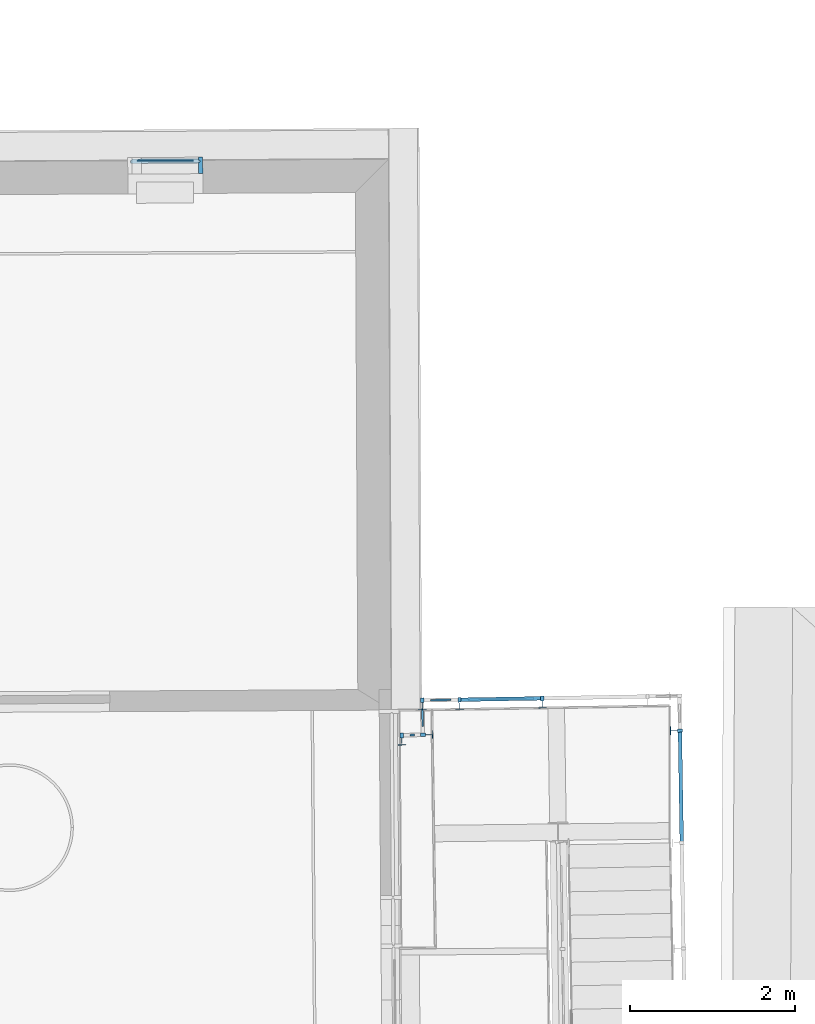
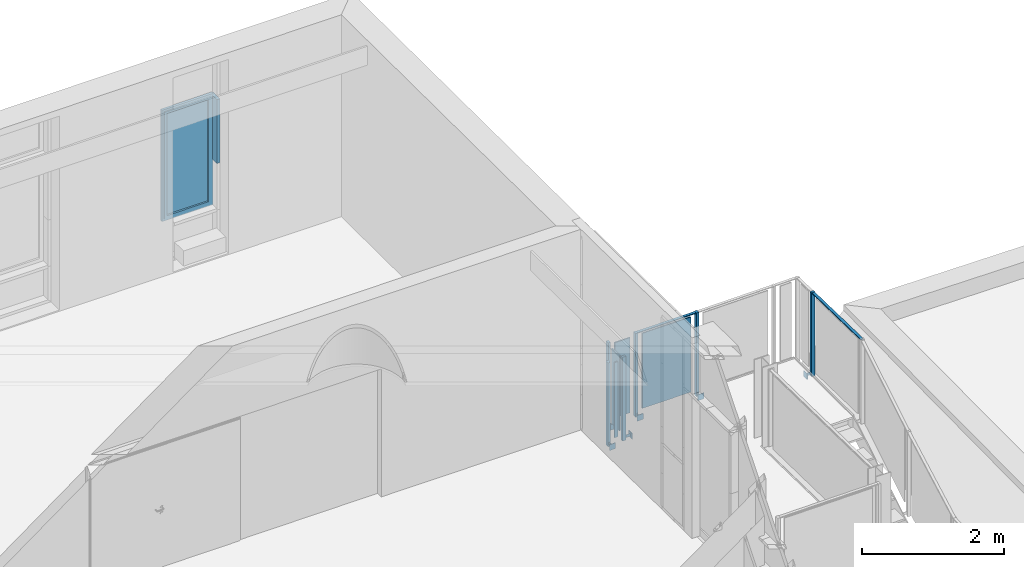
# One storey, part 111 of 158: 15 building element parts, 2 elements without a shape of their own.
"""IFC2X3 building model written with IfcOpenShell, lengths in metres."""

from ifc_helpers import new_model, entity, si_unit, converted_unit, derived_unit, money_unit, direction, frame, origin_with_axes, place, context, subcontext, project, spatial, faceted_brep, material, type_object, element, aggregate, save


model = new_model("IFC2X3")

# Units and contexts
model_context = context("Model", 3, precision=1e-05, world=origin_with_axes(), true_north=direction((0.0, 1.0)))
body_context = subcontext(model_context, "Body", "Model", "MODEL_VIEW")
ifc_project = project(units=[si_unit("LENGTHUNIT", "METRE"), si_unit("AREAUNIT", "SQUARE_METRE"), si_unit("VOLUMEUNIT", "CUBIC_METRE"), converted_unit("PLANEANGLEUNIT", "DEGREE", entity("IfcPlaneAngleMeasure", 0.0174532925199), si_unit("PLANEANGLEUNIT", "RADIAN"), dimensions=[0, 0, 0, 0, 0, 0, 0]), money_unit("EUR"), converted_unit("TIMEUNIT", "Year", entity("IfcTimeMeasure", 31556926.0), si_unit("TIMEUNIT", "SECOND"), dimensions=[0, 0, 1, 0, 0, 0, 0]), si_unit("MASSUNIT", "GRAM", prefix="KILO"), si_unit("THERMODYNAMICTEMPERATUREUNIT", "DEGREE_CELSIUS"), si_unit("LUMINOUSINTENSITYUNIT", "LUMEN"), si_unit("ENERGYUNIT", "JOULE", prefix="MEGA"), derived_unit("THERMALCONDUCTANCEUNIT", [(si_unit("POWERUNIT", "WATT"), 1), (si_unit("LENGTHUNIT", "METRE"), -1), (si_unit("THERMODYNAMICTEMPERATUREUNIT", "KELVIN"), -1)]), derived_unit("SPECIFICHEATCAPACITYUNIT", [(si_unit("ENERGYUNIT", "JOULE"), 1), (si_unit("MASSUNIT", "GRAM", prefix="KILO"), -1), (si_unit("THERMODYNAMICTEMPERATUREUNIT", "KELVIN"), -1)]), derived_unit("MASSDENSITYUNIT", [(si_unit("MASSUNIT", "GRAM", prefix="KILO"), 1), (si_unit("VOLUMEUNIT", "CUBIC_METRE"), -1)])], contexts=[model_context])

# Site, building, storey
site_placement = place(None, origin_with_axes())
site = spatial("IfcSite", under=ifc_project, at=site_placement, Name="Gelände", CompositionType="ELEMENT")
building_placement = place(site_placement, origin_with_axes())
building = spatial("IfcBuilding", under=site, at=building_placement, Name="Gebäude", CompositionType="ELEMENT")
storey_placement = place(building_placement, origin_with_axes())
storey = spatial("IfcBuildingStorey", under=building, at=storey_placement, Name="ERDGESCHOSS", CompositionType="ELEMENT", Elevation=0.0)

# Proxy, building element parts
building_element_proxy_type_1 = type_object("IfcBuildingElementProxyType", Name="Fassadentyp", PredefinedType="NOTDEFINED")
proxy_1_placement = place(storey_placement, frame((-18.429809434, 53.9956757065, 1.34043902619), z_axis=(0.0, 0.0, 1.0), x_axis=(1.0, 0.0, 0.0)))
proxy_1 = element("IfcBuildingElementProxy", 1, at=proxy_1_placement, inside=storey, type_object=building_element_proxy_type_1, Name="Fassade-002")
ifc_material_1 = material(Name="53_Metall, Aluminium")
building_element_part_1_placement = place(proxy_1_placement, origin_with_axes())
building_element_part_1 = element("IfcBuildingElementPart", 2, at=building_element_part_1_placement, material=ifc_material_1, Name="53_Metall, Aluminium", context=body_context, shape_type="Brep", body=[
    faceted_brep([(0.49932344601, 0.0329124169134, 0.645000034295), (-0.307762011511, 0.0282057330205, 0.645000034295), (-0.307791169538, 0.0332056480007, 0.645000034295), (0.499294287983, 0.0379123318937, 0.645000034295), (0.454324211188, 0.0326499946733, 0.690000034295), (-0.262762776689, 0.0284681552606, 0.690000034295), (-0.262791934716, 0.0334680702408, 0.690000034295), (0.454295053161, 0.0376499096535, 0.690000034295)], [[[0, 1, 2, 3]], [[0, 4, 5, 1]], [[1, 5, 6, 2]], [[3, 2, 6, 7]], [[4, 0, 3, 7]], [[5, 4, 7, 6]]]),
    faceted_brep([(-0.307762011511, 0.0282057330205, 0.645000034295), (-0.307762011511, 0.0282057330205, 2.53377854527), (-0.307791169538, 0.0332056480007, 2.53377854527), (-0.307791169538, 0.0332056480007, 0.645000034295), (-0.262762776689, 0.0284681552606, 0.690000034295), (-0.262762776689, 0.0284681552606, 2.48877854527), (-0.262791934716, 0.0334680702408, 2.48877854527), (-0.262791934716, 0.0334680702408, 0.690000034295)], [[[0, 1, 2, 3]], [[0, 4, 5, 1]], [[1, 5, 6, 2]], [[3, 2, 6, 7]], [[4, 0, 3, 7]], [[5, 4, 7, 6]]]),
    faceted_brep([(0.49932344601, 0.0329124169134, 2.53377854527), (0.454324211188, 0.0326499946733, 2.48877854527), (0.454295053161, 0.0376499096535, 2.48877854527), (0.499294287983, 0.0379123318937, 2.53377854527), (-0.307762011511, 0.0282057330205, 2.53377854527), (-0.262762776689, 0.0284681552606, 2.48877854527), (-0.262791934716, 0.0334680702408, 2.48877854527), (-0.307791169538, 0.0332056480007, 2.53377854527)], [[[0, 1, 2, 3]], [[0, 4, 5, 1]], [[1, 5, 6, 2]], [[3, 2, 6, 7]], [[4, 0, 3, 7]], [[5, 4, 7, 6]]]),
    faceted_brep([(0.49932344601, 0.0329124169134, 0.645000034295), (0.454324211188, 0.0326499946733, 0.690000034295), (0.454295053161, 0.0376499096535, 0.690000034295), (0.499294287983, 0.0379123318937, 0.645000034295), (0.49932344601, 0.0329124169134, 2.53377854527), (0.454324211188, 0.0326499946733, 2.48877854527), (0.454295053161, 0.0376499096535, 2.48877854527), (0.499294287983, 0.0379123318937, 2.53377854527)], [[[0, 1, 2, 3]], [[0, 4, 5, 1]], [[1, 5, 6, 2]], [[3, 2, 6, 7]], [[4, 0, 3, 7]], [[5, 4, 7, 6]]]),
    faceted_brep([(0.499615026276, -0.0170867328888, 0.645000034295), (-0.307470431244, -0.0217934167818, 0.645000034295), (-0.307762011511, 0.0282057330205, 0.645000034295), (0.49932344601, 0.0329124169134, 0.645000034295), (0.479615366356, -0.0172033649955, 0.665000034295), (-0.287470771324, -0.0216767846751, 0.665000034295), (-0.28776235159, 0.0283223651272, 0.665000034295), (0.479323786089, 0.0327957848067, 0.665000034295)], [[[0, 1, 2, 3]], [[0, 4, 5, 1]], [[1, 5, 6, 2]], [[3, 2, 6, 7]], [[4, 0, 3, 7]], [[5, 4, 7, 6]]]),
    faceted_brep([(-0.307470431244, -0.0217934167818, 0.645000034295), (-0.307470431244, -0.0217934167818, 2.53377854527), (-0.307762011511, 0.0282057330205, 2.53377854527), (-0.307762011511, 0.0282057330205, 0.645000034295), (-0.287470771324, -0.0216767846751, 0.665000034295), (-0.287470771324, -0.0216767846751, 2.51377854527), (-0.28776235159, 0.0283223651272, 2.51377854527), (-0.28776235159, 0.0283223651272, 0.665000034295)], [[[0, 1, 2, 3]], [[0, 4, 5, 1]], [[1, 5, 6, 2]], [[3, 2, 6, 7]], [[4, 0, 3, 7]], [[5, 4, 7, 6]]]),
    faceted_brep([(0.499615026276, -0.0170867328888, 2.53377854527), (0.479615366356, -0.0172033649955, 2.51377854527), (0.479323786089, 0.0327957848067, 2.51377854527), (0.49932344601, 0.0329124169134, 2.53377854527), (-0.307470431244, -0.0217934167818, 2.53377854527), (-0.287470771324, -0.0216767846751, 2.51377854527), (-0.28776235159, 0.0283223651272, 2.51377854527), (-0.307762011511, 0.0282057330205, 2.53377854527)], [[[0, 1, 2, 3]], [[0, 4, 5, 1]], [[1, 5, 6, 2]], [[3, 2, 6, 7]], [[4, 0, 3, 7]], [[5, 4, 7, 6]]]),
    faceted_brep([(0.499615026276, -0.0170867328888, 0.645000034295), (0.479615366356, -0.0172033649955, 0.665000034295), (0.479323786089, 0.0327957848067, 0.665000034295), (0.49932344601, 0.0329124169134, 0.645000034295), (0.499615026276, -0.0170867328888, 2.53377854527), (0.479615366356, -0.0172033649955, 2.51377854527), (0.479323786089, 0.0327957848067, 2.51377854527), (0.49932344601, 0.0329124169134, 2.53377854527)], [[[0, 1, 2, 3]], [[0, 4, 5, 1]], [[1, 5, 6, 2]], [[3, 2, 6, 7]], [[4, 0, 3, 7]], [[5, 4, 7, 6]]]),
    faceted_brep([(0.514614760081, -0.0169992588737, 0.630000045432), (-0.322470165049, -0.0218808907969, 0.630000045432), (-0.322703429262, 0.0181184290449, 0.630000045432), (0.514381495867, 0.0230000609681, 0.630000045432), (0.499615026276, -0.0170867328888, 0.645000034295), (-0.307470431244, -0.0217934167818, 0.645000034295), (-0.307703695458, 0.01820590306, 0.645000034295), (0.499381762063, 0.022912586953, 0.645000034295)], [[[0, 1, 2, 3]], [[0, 4, 5, 1]], [[1, 5, 6, 2]], [[3, 2, 6, 7]], [[4, 0, 3, 7]], [[5, 4, 7, 6]]]),
    faceted_brep([(-0.322470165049, -0.0218808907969, 0.630000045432), (-0.322470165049, -0.0218808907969, 2.54877853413), (-0.322703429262, 0.0181184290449, 2.54877853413), (-0.322703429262, 0.0181184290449, 0.630000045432), (-0.307470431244, -0.0217934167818, 0.645000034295), (-0.307470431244, -0.0217934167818, 2.53377854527), (-0.307703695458, 0.01820590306, 2.53377854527), (-0.307703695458, 0.01820590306, 0.645000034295)], [[[0, 1, 2, 3]], [[0, 4, 5, 1]], [[1, 5, 6, 2]], [[3, 2, 6, 7]], [[4, 0, 3, 7]], [[5, 4, 7, 6]]]),
    faceted_brep([(-0.322470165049, -0.0218808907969, 2.54877853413), (0.514614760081, -0.0169992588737, 2.54877853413), (0.514381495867, 0.0230000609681, 2.54877853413), (-0.322703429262, 0.0181184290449, 2.54877853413), (-0.307470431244, -0.0217934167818, 2.53377854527), (0.499615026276, -0.0170867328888, 2.53377854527), (0.499381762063, 0.022912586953, 2.53377854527), (-0.307703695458, 0.01820590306, 2.53377854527)], [[[0, 1, 2, 3]], [[0, 4, 5, 1]], [[1, 5, 6, 2]], [[3, 2, 6, 7]], [[4, 0, 3, 7]], [[5, 4, 7, 6]]]),
    faceted_brep([(0.514614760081, -0.0169992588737, 2.54877853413), (0.514614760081, -0.0169992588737, 0.630000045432), (0.514381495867, 0.0230000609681, 0.630000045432), (0.514381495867, 0.0230000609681, 2.54877853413), (0.499615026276, -0.0170867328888, 2.53377854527), (0.499615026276, -0.0170867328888, 0.645000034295), (0.499381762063, 0.022912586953, 0.645000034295), (0.499381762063, 0.022912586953, 2.53377854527)], [[[0, 1, 2, 3]], [[0, 4, 5, 1]], [[1, 5, 6, 2]], [[3, 2, 6, 7]], [[4, 0, 3, 7]], [[5, 4, 7, 6]]]),
    faceted_brep([(0.434324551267, 0.0325333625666, 0.710000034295), (0.43464528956, -0.0224657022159, 0.710000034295), (0.43464528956, -0.0224657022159, 2.46877854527), (0.434324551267, 0.0325333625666, 2.46877854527), (0.479323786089, 0.0327957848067, 0.665000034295), (0.479644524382, -0.0222032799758, 0.665000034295), (0.479644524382, -0.0222032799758, 2.51377854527), (0.479323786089, 0.0327957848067, 2.51377854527)], [[[0, 1, 2, 3]], [[4, 5, 1, 0]], [[1, 5, 6, 2]], [[3, 2, 6, 7]], [[0, 3, 7, 4]], [[7, 6, 5, 4]]]),
    faceted_brep([(-0.28776235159, 0.0283223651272, 0.665000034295), (-0.287441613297, -0.0266766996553, 0.665000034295), (-0.287441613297, -0.0266766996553, 2.51377854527), (-0.28776235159, 0.0283223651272, 2.51377854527), (-0.242763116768, 0.0285847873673, 0.710000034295), (-0.242442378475, -0.0264142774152, 0.710000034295), (-0.242442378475, -0.0264142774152, 2.46877854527), (-0.242763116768, 0.0285847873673, 2.46877854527)], [[[0, 1, 2, 3]], [[4, 5, 1, 0]], [[1, 5, 6, 2]], [[3, 2, 6, 7]], [[0, 3, 7, 4]], [[7, 6, 5, 4]]]),
    faceted_brep([(-0.28776235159, 0.0283223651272, 0.665000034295), (-0.287441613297, -0.0266766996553, 0.665000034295), (-0.242442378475, -0.0264142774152, 0.710000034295), (-0.242763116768, 0.0285847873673, 0.710000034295), (0.479323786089, 0.0327957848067, 0.665000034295), (0.479644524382, -0.0222032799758, 0.665000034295), (0.43464528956, -0.0224657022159, 0.710000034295), (0.434324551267, 0.0325333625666, 0.710000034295)], [[[0, 1, 2, 3]], [[4, 5, 1, 0]], [[1, 5, 6, 2]], [[3, 2, 6, 7]], [[0, 3, 7, 4]], [[7, 6, 5, 4]]]),
    faceted_brep([(0.479323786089, 0.0327957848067, 2.51377854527), (0.479644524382, -0.0222032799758, 2.51377854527), (0.43464528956, -0.0224657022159, 2.46877854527), (0.434324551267, 0.0325333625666, 2.46877854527), (-0.28776235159, 0.0283223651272, 2.51377854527), (-0.287441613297, -0.0266766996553, 2.51377854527), (-0.242442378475, -0.0264142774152, 2.46877854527), (-0.242763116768, 0.0285847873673, 2.46877854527)], [[[0, 1, 2, 3]], [[4, 5, 1, 0]], [[1, 5, 6, 2]], [[3, 2, 6, 7]], [[0, 3, 7, 4]], [[7, 6, 5, 4]]]),
])
ifc_material_2 = material(Name="45_Glas, Normalglas")
building_element_part_2_placement = place(proxy_1_placement, origin_with_axes())
building_element_part_2 = element("IfcBuildingElementPart", 3, at=building_element_part_2_placement, material=ifc_material_2, Name="45_Glas, Normalglas", context=body_context, shape_type="Brep", body=[
    faceted_brep([(0.43438286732, 0.0225335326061, 0.710000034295), (0.434476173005, 0.00653380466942, 0.710000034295), (-0.24261149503, 0.00258522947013, 0.710000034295), (-0.242704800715, 0.0185849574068, 0.710000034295), (0.43438286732, 0.0225335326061, 2.46877854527), (0.434476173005, 0.00653380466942, 2.46877854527), (-0.24261149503, 0.00258522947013, 2.46877854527), (-0.242704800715, 0.0185849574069, 2.46877854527)], [[[0, 1, 2, 3]], [[4, 5, 1, 0]], [[1, 5, 6, 2]], [[3, 2, 6, 7]], [[0, 3, 7, 4]], [[7, 6, 5, 4]]]),
])
building_element_part_3_placement = place(proxy_1_placement, origin_with_axes())
building_element_part_3 = element("IfcBuildingElementPart", 4, at=building_element_part_3_placement, material=ifc_material_1, Name="53_Metall, Aluminium", context=body_context, shape_type="Brep", body=[
    faceted_brep([(0.514556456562, -0.00699942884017, 2.5200000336), (0.499556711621, -0.00708690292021, 2.5200000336), (0.500373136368, -0.147084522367, 2.5200000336), (0.55037228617, -0.1467929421, 2.5200000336), (0.549205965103, 0.0532036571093, 2.5200000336), (0.499206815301, 0.0529120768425, 2.5200000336), (0.499440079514, 0.0129127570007, 2.5200000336), (0.514439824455, 0.0130002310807, 2.5200000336), (0.514556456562, -0.00699942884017, 1.4200000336), (0.499556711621, -0.00708690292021, 1.4200000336), (0.500373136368, -0.147084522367, 1.4200000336), (0.55037228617, -0.1467929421, 1.4200000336), (0.549205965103, 0.0532036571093, 1.4200000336), (0.499206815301, 0.0529120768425, 1.4200000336), (0.499440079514, 0.0129127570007, 1.4200000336), (0.514439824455, 0.0130002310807, 1.4200000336)], [[[0, 1, 2, 3, 4, 5, 6, 7]], [[0, 8, 9, 1]], [[9, 10, 2, 1]], [[10, 11, 3, 2]], [[11, 12, 4, 3]], [[12, 13, 5, 4]], [[6, 5, 13, 14]], [[14, 15, 7, 6]], [[7, 15, 8, 0]], [[8, 15, 14, 13, 12, 11, 10, 9]]]),
])
aggregate(proxy_1, [building_element_part_1, building_element_part_2, building_element_part_3])

building_element_proxy_type_2 = type_object("IfcBuildingElementProxyType", Name="Geländerart", PredefinedType="NOTDEFINED")
proxy_2_placement = place(storey_placement, frame((-12.121386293, 39.1724071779, -2.51797066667), z_axis=(0.0, 0.0, 1.0), x_axis=(1.0, 0.0, 0.0)))
proxy_2 = element("IfcBuildingElementProxy", 5, at=proxy_2_placement, inside=storey, type_object=building_element_proxy_type_2, Name="Geländer-001")
ifc_material_3 = material(Name="56_Metall, Stahl verzinkt")
building_element_part_4_placement = place(proxy_2_placement, origin_with_axes())
building_element_part_4 = element("IfcBuildingElementPart", 6, at=building_element_part_4_placement, material=ifc_material_3, Name="56_Metall, Stahl verzinkt", context=body_context, shape_type="Brep", body=[
    faceted_brep([(-0.0166545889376, 7.93722979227, 3.748423), (-0.0167360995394, 7.94222912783, 3.748423), (-0.0967254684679, 7.9409249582, 3.748423), (-0.0966439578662, 7.93592562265, 3.748423), (-0.0167360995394, 7.94222912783, 3.698423), (-0.0166545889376, 7.93722979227, 3.698423), (-0.0967254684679, 7.9409249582, 3.698423), (-0.0966439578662, 7.93592562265, 3.698423)], [[[0, 1, 2, 3]], [[4, 1, 0, 5]], [[1, 4, 6, 2]], [[7, 3, 2, 6]], [[5, 0, 3, 7]], [[4, 5, 7, 6]]]),
    faceted_brep([(-0.105868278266, 7.88826891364, 3.773423), (-0.0958696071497, 7.88843193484, 3.773423), (-0.0974998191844, 7.988418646, 3.773423), (-0.1074984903, 7.9882556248, 3.773423), (-0.105868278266, 7.88826891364, 3.673423), (-0.0958696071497, 7.88843193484, 3.673423), (-0.0974998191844, 7.988418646, 3.673423), (-0.1074984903, 7.9882556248, 3.673423)], [[[0, 1, 2, 3]], [[4, 5, 1, 0]], [[1, 5, 6, 2]], [[3, 2, 6, 7]], [[0, 3, 7, 4]], [[7, 6, 5, 4]]]),
    faceted_brep([(0.0429706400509, 7.9607049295, 3.673423), (-0.0170213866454, 7.95972680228, 3.673423), (-0.0170213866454, 7.95972680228, 5.118423), (0.0429706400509, 7.9607049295, 5.118423), (0.0436227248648, 7.92071024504, 3.673423), (-0.0163693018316, 7.91973211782, 3.673423), (-0.0163693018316, 7.91973211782, 5.118423), (0.0436227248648, 7.92071024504, 5.118423)], [[[0, 1, 2, 3]], [[0, 4, 5, 1]], [[1, 5, 6, 2]], [[3, 2, 6, 7]], [[4, 0, 3, 7]], [[5, 4, 7, 6]]]),
])
building_element_part_5_placement = place(proxy_2_placement, origin_with_axes())
building_element_part_5 = element("IfcBuildingElementPart", 7, at=building_element_part_5_placement, material=ifc_material_3, Name="56_Metall, Stahl verzinkt", context=body_context, shape_type="Brep", body=[
    faceted_brep([(-1.64829777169, 8.30090155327, 3.75036885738), (-1.65329698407, 8.3008128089, 3.75036885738), (-1.65187707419, 8.2208254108, 3.75036885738), (-1.64687786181, 8.22091415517, 3.75036885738), (-1.65329698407, 8.3008128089, 3.70036885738), (-1.64829777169, 8.30090155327, 3.70036885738), (-1.65187707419, 8.2208254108, 3.70036885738), (-1.64687786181, 8.22091415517, 3.70036885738)], [[[0, 1, 2, 3]], [[4, 1, 0, 5]], [[1, 4, 6, 2]], [[7, 3, 2, 6]], [[5, 0, 3, 7]], [[4, 5, 7, 6]]]),
    faceted_brep([(-1.59920785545, 8.21175880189, 3.77536885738), (-1.59938534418, 8.22175722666, 3.77536885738), (-1.69936959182, 8.21998233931, 3.77536885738), (-1.69919210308, 8.20998391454, 3.77536885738), (-1.59920785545, 8.21175880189, 3.67536885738), (-1.59938534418, 8.22175722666, 3.67536885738), (-1.69936959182, 8.21998233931, 3.67536885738), (-1.69919210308, 8.20998391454, 3.67536885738)], [[[0, 1, 2, 3]], [[4, 5, 1, 0]], [[1, 5, 6, 2]], [[3, 2, 6, 7]], [[0, 3, 7, 4]], [[7, 6, 5, 4]]]),
    faceted_brep([(-1.67185915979, 8.3604927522, 3.67544903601), (-1.67079422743, 8.30050220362, 3.67544902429), (-1.67079422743, 8.30050220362, 5.12044902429), (-1.67185915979, 8.3604927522, 5.12044903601), (-1.63186546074, 8.36120270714, 3.67528869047), (-1.63080052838, 8.30121215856, 3.67528867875), (-1.63080052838, 8.30121215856, 5.12028867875), (-1.63186546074, 8.36120270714, 5.12028869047)], [[[0, 1, 2, 3]], [[0, 4, 5, 1]], [[1, 5, 6, 2]], [[3, 2, 6, 7]], [[4, 0, 3, 7]], [[5, 4, 7, 6]]]),
])
building_element_part_6_placement = place(proxy_2_placement, origin_with_axes())
building_element_part_6 = element("IfcBuildingElementPart", 8, at=building_element_part_6_placement, material=ifc_material_3, Name="56_Metall, Stahl verzinkt", context=body_context, shape_type="Brep", body=[
    faceted_brep([(-2.64996481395, 8.28318048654, 3.756869), (-2.65496403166, 8.28309204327, 3.756869), (-2.6535489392, 8.20310455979, 3.756869), (-2.64854972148, 8.20319300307, 3.756869), (-2.65496403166, 8.28309204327, 3.706869), (-2.64996481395, 8.28318048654, 3.706869), (-2.6535489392, 8.20310455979, 3.706869), (-2.64854972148, 8.20319300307, 3.706869)], [[[0, 1, 2, 3]], [[4, 1, 0, 5]], [[1, 4, 6, 2]], [[7, 3, 2, 6]], [[5, 0, 3, 7]], [[4, 5, 7, 6]]]),
    faceted_brep([(-2.60088026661, 8.19403477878, 3.781869), (-2.60105715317, 8.20403321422, 3.781869), (-2.70104150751, 8.20226434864, 3.781869), (-2.70086462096, 8.1922659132, 3.781869), (-2.60088026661, 8.19403477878, 3.681869), (-2.60105715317, 8.20403321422, 3.681869), (-2.70104150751, 8.20226434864, 3.681869), (-2.70086462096, 8.1922659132, 3.681869)], [[[0, 1, 2, 3]], [[4, 5, 1, 0]], [[1, 5, 6, 2]], [[3, 2, 6, 7]], [[0, 3, 7, 4]], [[7, 6, 5, 4]]]),
    faceted_brep([(-2.67352261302, 8.3427731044, 3.68193388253), (-2.67246129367, 8.28278249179, 3.68193388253), (-2.67246129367, 8.28278249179, 5.12693388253), (-2.67352261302, 8.3427731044, 5.12693388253), (-2.63352887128, 8.34348065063, 3.68180411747), (-2.63246755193, 8.28349003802, 3.68180411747), (-2.63246755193, 8.28349003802, 5.12680411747), (-2.63352887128, 8.34348065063, 5.12680411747)], [[[0, 1, 2, 3]], [[0, 4, 5, 1]], [[1, 5, 6, 2]], [[3, 2, 6, 7]], [[4, 0, 3, 7]], [[5, 4, 7, 6]]]),
])
building_element_part_7_placement = place(proxy_2_placement, origin_with_axes())
building_element_part_7 = element("IfcBuildingElementPart", 9, at=building_element_part_7_placement, material=ifc_material_3, Name="56_Metall, Stahl verzinkt", context=body_context, shape_type="Brep", body=[
    faceted_brep([(-3.10052437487, 8.27723243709, 3.756869), (-3.10552394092, 8.2771665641, 3.756869), (-3.10446997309, 8.19717350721, 3.756869), (-3.09947040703, 8.19723938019, 3.756869), (-3.10552394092, 8.2771665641, 3.706869), (-3.10052437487, 8.27723243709, 3.706869), (-3.10446997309, 8.19717350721, 3.706869), (-3.09947040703, 8.19723938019, 3.706869)], [[[0, 1, 2, 3]], [[4, 1, 0, 5]], [[1, 4, 6, 2]], [[7, 3, 2, 6]], [[5, 0, 3, 7]], [[4, 5, 7, 6]]]),
    faceted_brep([(-3.05184278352, 8.18786604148, 3.781869), (-3.0519745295, 8.19786517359, 3.781869), (-3.15196585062, 8.1965477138, 3.781869), (-3.15183410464, 8.18654858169, 3.781869), (-3.05184278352, 8.18786604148, 3.681869), (-3.0519745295, 8.19786517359, 3.681869), (-3.15196585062, 8.1965477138, 3.681869), (-3.15183410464, 8.18654858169, 3.681869)], [[[0, 1, 2, 3]], [[4, 5, 1, 0]], [[1, 5, 6, 2]], [[3, 2, 6, 7]], [[0, 3, 7, 4]], [[7, 6, 5, 4]]]),
    faceted_brep([(-3.12381289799, 8.33693080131, 3.681869), (-3.12302242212, 8.27693600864, 3.681869), (-3.12302242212, 8.27693600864, 5.126869), (-3.12381289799, 8.33693080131, 5.126869), (-3.08381636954, 8.33745778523, 3.681869), (-3.08302589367, 8.27746299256, 3.681869), (-3.08302589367, 8.27746299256, 5.126869), (-3.08381636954, 8.33745778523, 5.126869)], [[[0, 1, 2, 3]], [[0, 4, 5, 1]], [[1, 5, 6, 2]], [[3, 2, 6, 7]], [[4, 0, 3, 7]], [[5, 4, 7, 6]]]),
])
building_element_part_8_placement = place(proxy_2_placement, origin_with_axes())
building_element_part_8 = element("IfcBuildingElementPart", 10, at=building_element_part_8_placement, material=ifc_material_3, Name="56_Metall, Stahl verzinkt", context=body_context, shape_type="Brep", body=[
    faceted_brep([(-3.06641664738, 7.89326014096, 3.756869), (-3.06633212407, 7.88826085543, 3.756869), (-2.98634355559, 7.8896132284, 3.756869), (-2.9864280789, 7.89461251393, 3.756869), (-3.06633212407, 7.88826085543, 3.706869), (-3.06641664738, 7.89326014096, 3.706869), (-2.98634355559, 7.8896132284, 3.706869), (-2.9864280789, 7.89461251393, 3.706869)], [[[0, 1, 2, 3]], [[4, 1, 0, 5]], [[1, 4, 6, 2]], [[7, 3, 2, 6]], [[5, 0, 3, 7]], [[4, 5, 7, 6]]]),
    faceted_brep([(-2.97723247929, 7.94227477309, 3.781869), (-2.98723105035, 7.94210572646, 3.781869), (-2.98554058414, 7.84212001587, 3.781869), (-2.97554201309, 7.84228906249, 3.781869), (-2.97723247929, 7.94227477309, 3.681869), (-2.98723105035, 7.94210572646, 3.681869), (-2.98554058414, 7.84212001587, 3.681869), (-2.97554201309, 7.84228906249, 3.681869)], [[[0, 1, 2, 3]], [[4, 5, 1, 0]], [[1, 5, 6, 2]], [[3, 2, 6, 7]], [[0, 3, 7, 4]], [[7, 6, 5, 4]]]),
    faceted_brep([(-3.12602771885, 7.86974907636, 3.681869), (-3.06603629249, 7.87076335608, 3.681869), (-3.06603629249, 7.87076335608, 5.126869), (-3.12602771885, 7.86974907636, 5.126869), (-3.12670390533, 7.9097433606, 3.681869), (-3.06671247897, 7.91075764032, 3.681869), (-3.06671247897, 7.91075764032, 5.126869), (-3.12670390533, 7.9097433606, 5.126869)], [[[0, 1, 2, 3]], [[0, 4, 5, 1]], [[1, 5, 6, 2]], [[3, 2, 6, 7]], [[4, 0, 3, 7]], [[5, 4, 7, 6]]]),
])
building_element_part_9_placement = place(proxy_2_placement, origin_with_axes())
building_element_part_9 = element("IfcBuildingElementPart", 11, at=building_element_part_9_placement, material=ifc_material_3, Name="56_Metall, Stahl verzinkt", context=body_context, shape_type="Brep", body=[
    faceted_brep([(-3.34834850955, 7.85294307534, 3.756869), (-3.35334641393, 7.85279832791, 3.756869), (-3.35103045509, 7.77283185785, 3.756869), (-3.34603255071, 7.77297660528, 3.756869), (-3.35334641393, 7.85279832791, 3.706869), (-3.34834850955, 7.85294307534, 3.706869), (-3.35103045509, 7.77283185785, 3.706869), (-3.34603255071, 7.77297660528, 3.706869)], [[[0, 1, 2, 3]], [[4, 1, 0, 5]], [[1, 4, 6, 2]], [[7, 3, 2, 6]], [[5, 0, 3, 7]], [[4, 5, 7, 6]]]),
    faceted_brep([(-3.29826296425, 7.76435589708, 3.781869), (-3.29855245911, 7.77435170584, 3.781869), (-3.39851054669, 7.77145675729, 3.781869), (-3.39822105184, 7.76146094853, 3.781869), (-3.29826296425, 7.76435589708, 3.681869), (-3.29855245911, 7.77435170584, 3.681869), (-3.39851054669, 7.77145675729, 3.681869), (-3.39822105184, 7.76146094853, 3.681869)], [[[0, 1, 2, 3]], [[4, 5, 1, 0]], [[1, 5, 6, 2]], [[3, 2, 6, 7]], [[0, 3, 7, 4]], [[7, 6, 5, 4]]]),
    faceted_brep([(-3.37257604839, 7.91226656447, 3.681869), (-3.37083907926, 7.85229171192, 3.681869), (-3.37083907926, 7.85229171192, 5.126869), (-3.37257604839, 7.91226656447, 5.126869), (-3.33259281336, 7.91342454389, 3.681869), (-3.33085584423, 7.85344969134, 3.681869), (-3.33085584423, 7.85344969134, 5.126869), (-3.33259281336, 7.91342454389, 5.126869)], [[[0, 1, 2, 3]], [[0, 4, 5, 1]], [[1, 5, 6, 2]], [[3, 2, 6, 7]], [[4, 0, 3, 7]], [[5, 4, 7, 6]]]),
])
building_element_part_10_placement = place(proxy_2_placement, origin_with_axes())
building_element_part_10 = element("IfcBuildingElementPart", 12, at=building_element_part_10_placement, material=ifc_material_3, Name="56_Metall, Stahl verzinkt", context=body_context, shape_type="Brep", body=[
    faceted_brep([(0.0579324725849, 6.58297959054, 5.118423), (0.0578607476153, 6.58737873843, 5.103423), (0.035797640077, 7.94058771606, 5.103423), (0.035797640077, 7.94058771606, 5.118423), (0.0129384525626, 6.58224599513, 5.118423), (0.012866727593, 6.58664514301, 5.103423), (-0.0091963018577, 7.93984933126, 5.103423), (-0.0091963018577, 7.93984933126, 5.118423)], [[[0, 1, 2, 3]], [[0, 4, 5, 1]], [[1, 5, 6, 2]], [[3, 2, 6, 7]], [[4, 0, 3, 7]], [[5, 4, 7, 6]]]),
])
building_element_part_11_placement = place(proxy_2_placement, origin_with_axes())
building_element_part_11 = element("IfcBuildingElementPart", 13, at=building_element_part_11_placement, material=ifc_material_3, Name="56_Metall, Stahl verzinkt", context=body_context, shape_type="Brep", body=[
    faceted_brep([(-1.6517285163, 8.35334892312, 5.12036885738), (-1.65178863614, 8.35334785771, 5.10536893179), (-2.65339095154, 8.33562819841, 5.111869), (-1.65093117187, 8.30835598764, 5.12036885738), (-1.65099129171, 8.30835492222, 5.10536893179), (-2.65269652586, 8.29063344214, 5.111869), (-2.65334229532, 8.33562894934, 5.126869), (-2.65264786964, 8.29063419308, 5.126869)], [[[0, 1, 2]], [[0, 3, 4, 1]], [[1, 5, 2]], [[0, 2, 6]], [[3, 0, 6]], [[4, 3, 7]], [[1, 4, 5]], [[6, 2, 5, 7]], [[3, 6, 7]], [[4, 7, 5]]]),
])
building_element_part_12_placement = place(proxy_2_placement, origin_with_axes())
building_element_part_12 = element("IfcBuildingElementPart", 14, at=building_element_part_12_placement, material=ifc_material_3, Name="56_Metall, Stahl verzinkt", context=body_context, shape_type="Brep", body=[
    faceted_brep([(-2.55283384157, 8.30490200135, 3.7812201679), (-1.75113731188, 8.31908515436, 3.77601768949), (-1.75113731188, 8.31908515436, 5.07101768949), (-2.55283384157, 8.30490200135, 5.0762201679), (-1.77113418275, 8.31873138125, 5.05114703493), (-1.77113418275, 8.31873138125, 3.79614787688), (-2.5328369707, 8.30525577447, 3.80109082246), (-2.5328369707, 8.30525577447, 5.0560899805), (-1.75149108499, 8.33908202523, 3.77601768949), (-2.55318761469, 8.32489887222, 3.7812201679), (-1.75149108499, 8.33908202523, 5.07101768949), (-2.55318761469, 8.32489887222, 5.0762201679), (-1.77148795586, 8.33872825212, 3.79614787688), (-1.77148795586, 8.33872825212, 5.05114703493), (-2.53319074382, 8.32525264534, 3.80109082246), (-2.53319074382, 8.32525264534, 5.0560899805)], [[[0, 1, 2, 3], [4, 5, 6, 7]], [[8, 1, 0, 9]], [[10, 2, 1, 8]], [[3, 2, 10, 11]], [[0, 3, 11, 9]], [[12, 5, 4, 13]], [[14, 6, 5, 12]], [[7, 6, 14, 15]], [[4, 7, 15, 13]], [[10, 8, 9, 11], [14, 12, 13, 15]]]),
    faceted_brep([(-2.5328369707, 8.30525577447, 3.80109082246), (-1.77113418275, 8.31873138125, 3.79614787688), (-1.77113418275, 8.31873138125, 5.05114703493), (-2.5328369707, 8.30525577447, 5.0560899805), (-1.77148795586, 8.33872825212, 3.79614787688), (-2.53319074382, 8.32525264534, 3.80109082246), (-1.77148795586, 8.33872825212, 5.05114703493), (-2.53319074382, 8.32525264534, 5.0560899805)], [[[0, 1, 2, 3]], [[4, 1, 0, 5]], [[6, 2, 1, 4]], [[3, 2, 6, 7]], [[0, 3, 7, 5]], [[6, 4, 5, 7]]]),
])
building_element_part_13_placement = place(proxy_2_placement, origin_with_axes())
building_element_part_13 = element("IfcBuildingElementPart", 15, at=building_element_part_13_placement, material=ifc_material_3, Name="56_Metall, Stahl verzinkt", context=body_context, shape_type="Brep", body=[
    faceted_brep([(-3.00329632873, 8.29851522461, 3.781869), (-2.75285465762, 8.30181497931, 3.781869), (-2.75285465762, 8.30181497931, 5.076869), (-3.00329632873, 8.29851522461, 5.076869), (-2.77285292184, 8.30155148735, 5.056869), (-2.77285292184, 8.30155148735, 3.801869), (-2.9832980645, 8.29877871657, 3.801869), (-2.9832980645, 8.29877871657, 5.056869), (-2.75311814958, 8.32181324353, 3.781869), (-3.00355982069, 8.31851348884, 3.781869), (-2.75311814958, 8.32181324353, 5.076869), (-3.00355982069, 8.31851348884, 5.076869), (-2.7731164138, 8.32154975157, 3.801869), (-2.7731164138, 8.32154975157, 5.056869), (-2.98356155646, 8.31877698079, 3.801869), (-2.98356155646, 8.31877698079, 5.056869)], [[[0, 1, 2, 3], [4, 5, 6, 7]], [[8, 1, 0, 9]], [[10, 2, 1, 8]], [[3, 2, 10, 11]], [[0, 3, 11, 9]], [[12, 5, 4, 13]], [[14, 6, 5, 12]], [[7, 6, 14, 15]], [[4, 7, 15, 13]], [[10, 8, 9, 11], [14, 12, 13, 15]]]),
    faceted_brep([(-2.9832980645, 8.29877871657, 3.801869), (-2.77285292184, 8.30155148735, 3.801869), (-2.77285292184, 8.30155148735, 5.056869), (-2.9832980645, 8.29877871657, 5.056869), (-2.7731164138, 8.32154975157, 3.801869), (-2.98356155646, 8.31877698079, 3.801869), (-2.7731164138, 8.32154975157, 5.056869), (-2.98356155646, 8.31877698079, 5.056869)], [[[0, 1, 2, 3]], [[4, 1, 0, 5]], [[6, 2, 1, 4]], [[3, 2, 6, 7]], [[0, 3, 7, 5]], [[6, 4, 5, 7]]]),
])
building_element_part_14_placement = place(proxy_2_placement, origin_with_axes())
building_element_part_14 = element("IfcBuildingElementPart", 16, at=building_element_part_14_placement, material=ifc_material_3, Name="56_Metall, Stahl verzinkt", context=body_context, shape_type="Brep", body=[
    faceted_brep([(-3.08806199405, 7.99040811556, 3.781869), (-3.09173035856, 8.20738023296, 3.781869), (-3.09173035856, 8.20738023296, 5.076869), (-3.08806199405, 7.99040811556, 5.076869), (-3.09139226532, 8.18738309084, 5.056869), (-3.09139226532, 8.18738309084, 3.801869), (-3.0884000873, 8.01040525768, 3.801869), (-3.0884000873, 8.01040525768, 5.056869), (-3.11172750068, 8.20704213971, 3.781869), (-3.10805913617, 7.99007002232, 3.781869), (-3.11172750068, 8.20704213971, 5.076869), (-3.10805913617, 7.99007002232, 5.076869), (-3.11138940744, 8.18704499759, 3.801869), (-3.11138940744, 8.18704499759, 5.056869), (-3.10839722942, 8.01006716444, 3.801869), (-3.10839722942, 8.01006716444, 5.056869)], [[[0, 1, 2, 3], [4, 5, 6, 7]], [[8, 1, 0, 9]], [[10, 2, 1, 8]], [[3, 2, 10, 11]], [[0, 3, 11, 9]], [[12, 5, 4, 13]], [[14, 6, 5, 12]], [[7, 6, 14, 15]], [[4, 7, 15, 13]], [[10, 8, 9, 11], [14, 12, 13, 15]]]),
    faceted_brep([(-3.0884000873, 8.01040525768, 3.801869), (-3.09139226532, 8.18738309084, 3.801869), (-3.09139226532, 8.18738309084, 5.056869), (-3.0884000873, 8.01040525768, 5.056869), (-3.11138940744, 8.18704499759, 3.801869), (-3.10839722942, 8.01006716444, 3.801869), (-3.11138940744, 8.18704499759, 5.056869), (-3.10839722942, 8.01006716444, 5.056869)], [[[0, 1, 2, 3]], [[4, 1, 0, 5]], [[6, 2, 1, 4]], [[3, 2, 6, 7]], [[0, 3, 7, 5]], [[6, 4, 5, 7]]]),
])
building_element_part_15_placement = place(proxy_2_placement, origin_with_axes())
building_element_part_15 = element("IfcBuildingElementPart", 17, at=building_element_part_15_placement, material=ifc_material_3, Name="56_Metall, Stahl verzinkt", context=body_context, shape_type="Brep", body=[
    faceted_brep([(-3.25146836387, 7.8757572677, 3.781869), (-3.19603869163, 7.87736260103, 3.781869), (-3.19603869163, 7.87736260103, 5.076869), (-3.25146836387, 7.8757572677, 5.076869), (-3.21603030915, 7.87678361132, 5.056869), (-3.21603030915, 7.87678361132, 3.801869), (-3.23147674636, 7.87633625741, 3.801869), (-3.23147674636, 7.87633625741, 5.056869), (-3.19661768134, 7.89735421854, 3.781869), (-3.25204735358, 7.89574888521, 3.781869), (-3.19661768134, 7.89735421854, 5.076869), (-3.25204735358, 7.89574888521, 5.076869), (-3.21660929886, 7.89677522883, 3.801869), (-3.21660929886, 7.89677522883, 5.056869), (-3.23205573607, 7.89632787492, 3.801869), (-3.23205573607, 7.89632787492, 5.056869)], [[[0, 1, 2, 3], [4, 5, 6, 7]], [[8, 1, 0, 9]], [[10, 2, 1, 8]], [[3, 2, 10, 11]], [[0, 3, 11, 9]], [[12, 5, 4, 13]], [[14, 6, 5, 12]], [[7, 6, 14, 15]], [[4, 7, 15, 13]], [[10, 8, 9, 11], [14, 12, 13, 15]]]),
    faceted_brep([(-3.23147674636, 7.87633625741, 3.801869), (-3.21603030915, 7.87678361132, 3.801869), (-3.21603030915, 7.87678361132, 5.056869), (-3.23147674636, 7.87633625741, 5.056869), (-3.21660929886, 7.89677522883, 3.801869), (-3.23205573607, 7.89632787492, 3.801869), (-3.21660929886, 7.89677522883, 5.056869), (-3.23205573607, 7.89632787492, 5.056869)], [[[0, 1, 2, 3]], [[4, 1, 0, 5]], [[6, 2, 1, 4]], [[3, 2, 6, 7]], [[0, 3, 7, 5]], [[6, 4, 5, 7]]]),
])
aggregate(proxy_2, [building_element_part_4, building_element_part_5, building_element_part_6, building_element_part_7, building_element_part_8, building_element_part_9, building_element_part_10, building_element_part_11, building_element_part_12, building_element_part_13, building_element_part_14, building_element_part_15])

save(model, "model.ifc")
